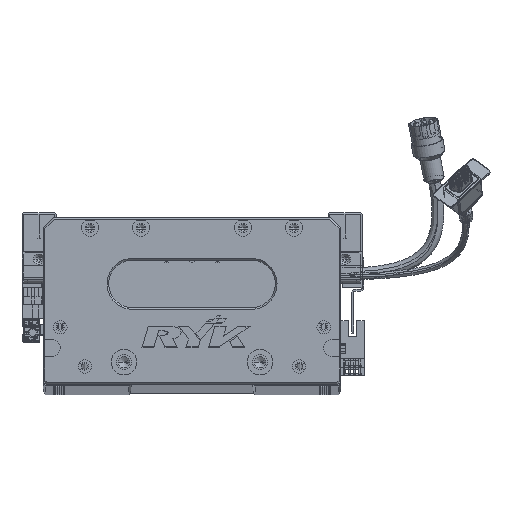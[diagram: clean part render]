
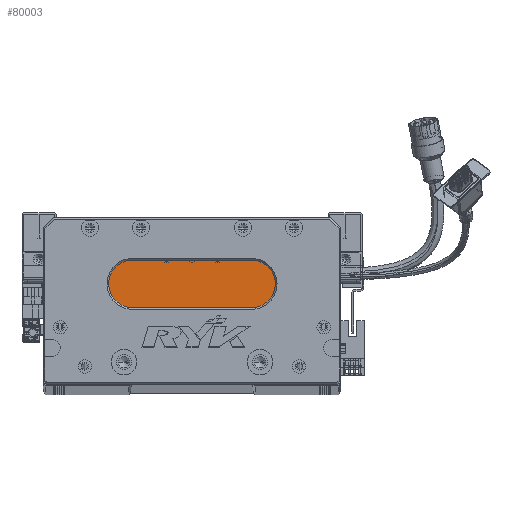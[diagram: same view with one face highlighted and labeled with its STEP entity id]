
A CAD part, top view. The second image highlights one B-rep face of the part: STEP entity #80003.
In plain terms, the highlighted planar face has unit normal (0, 0, 1) as drawn and (0, 0, -1) by its records, which use the part's own axes.
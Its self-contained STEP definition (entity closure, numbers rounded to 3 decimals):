
#4266 = PLANE ( 'NONE',  #11668 ) ;
#4471 = DIRECTION ( 'NONE',  ( 0., 0., -1. ) ) ;
#10737 = DIRECTION ( 'NONE',  ( 1., 0., 0. ) ) ;
#10924 = VERTEX_POINT ( 'NONE', #81734 ) ;
#11189 = CARTESIAN_POINT ( 'NONE',  ( 122.5, 73., 18. ) ) ;
#11668 = AXIS2_PLACEMENT_3D ( 'NONE', #132356, #26502, #130991 ) ;
#16599 = VERTEX_POINT ( 'NONE', #81495 ) ;
#19508 = FACE_OUTER_BOUND ( 'NONE', #44498, .T. ) ;
#21645 = AXIS2_PLACEMENT_3D ( 'NONE', #55999, #4471, #120088 ) ;
#26038 = VECTOR ( 'NONE', #39630, 1000. ) ;
#26502 = DIRECTION ( 'NONE',  ( 0., 0., -1. ) ) ;
#29715 = ORIENTED_EDGE ( 'NONE', *, *, #124328, .T. ) ;
#34925 = CIRCLE ( 'NONE', #108714, 14. ) ;
#37833 = CARTESIAN_POINT ( 'NONE',  ( 122.5, 45., 18. ) ) ;
#39630 = DIRECTION ( 'NONE',  ( -1., 0., 0. ) ) ;
#41525 = ORIENTED_EDGE ( 'NONE', *, *, #88510, .T. ) ;
#44498 = EDGE_LOOP ( 'NONE', ( #41525, #90439, #68123, #29715, #135334 ) ) ;
#49674 = CARTESIAN_POINT ( 'NONE',  ( 38.5, 59., 18. ) ) ;
#54818 = CARTESIAN_POINT ( 'NONE',  ( 122.5, 59., 18. ) ) ;
#55999 = CARTESIAN_POINT ( 'NONE',  ( 52.5, 59., 18. ) ) ;
#64677 = DIRECTION ( 'NONE',  ( -1., 0., 0. ) ) ;
#64812 = VERTEX_POINT ( 'NONE', #133229 ) ;
#68123 = ORIENTED_EDGE ( 'NONE', *, *, #89194, .T. ) ;
#73125 = AXIS2_PLACEMENT_3D ( 'NONE', #97232, #110669, #64677 ) ;
#75264 = DIRECTION ( 'NONE',  ( -1., 0., 0. ) ) ;
#80003 = ADVANCED_FACE ( 'NONE', ( #19508 ), #4266, .T. ) ;
#81495 = CARTESIAN_POINT ( 'NONE',  ( 52.5, 73., 18. ) ) ;
#81734 = CARTESIAN_POINT ( 'NONE',  ( 122.5, 73., 18. ) ) ;
#88510 = EDGE_CURVE ( 'NONE', #10924, #105446, #34925, .T. ) ;
#89194 = EDGE_CURVE ( 'NONE', #64812, #113513, #100262, .T. ) ;
#90439 = ORIENTED_EDGE ( 'NONE', *, *, #127488, .T. ) ;
#91123 = EDGE_CURVE ( 'NONE', #16599, #10924, #129693, .T. ) ;
#97232 = CARTESIAN_POINT ( 'NONE',  ( 52.5, 59., 18. ) ) ;
#100262 = CIRCLE ( 'NONE', #21645, 14. ) ;
#105446 = VERTEX_POINT ( 'NONE', #128760 ) ;
#106395 = VECTOR ( 'NONE', #10737, 1000. ) ;
#107784 = DIRECTION ( 'NONE',  ( 0., 0., -1. ) ) ;
#108714 = AXIS2_PLACEMENT_3D ( 'NONE', #54818, #107784, #75264 ) ;
#110669 = DIRECTION ( 'NONE',  ( 0., 0., -1. ) ) ;
#113513 = VERTEX_POINT ( 'NONE', #49674 ) ;
#116357 = CIRCLE ( 'NONE', #73125, 14. ) ;
#120088 = DIRECTION ( 'NONE',  ( -1., 0., 0. ) ) ;
#122359 = LINE ( 'NONE', #37833, #26038 ) ;
#124328 = EDGE_CURVE ( 'NONE', #113513, #16599, #116357, .T. ) ;
#127488 = EDGE_CURVE ( 'NONE', #105446, #64812, #122359, .T. ) ;
#128760 = CARTESIAN_POINT ( 'NONE',  ( 122.5, 45., 18. ) ) ;
#129693 = LINE ( 'NONE', #11189, #106395 ) ;
#130991 = DIRECTION ( 'NONE',  ( -1., 0., 0. ) ) ;
#132356 = CARTESIAN_POINT ( 'NONE',  ( 122.5, 59., 18. ) ) ;
#133229 = CARTESIAN_POINT ( 'NONE',  ( 52.5, 45., 18. ) ) ;
#135334 = ORIENTED_EDGE ( 'NONE', *, *, #91123, .T. ) ;
